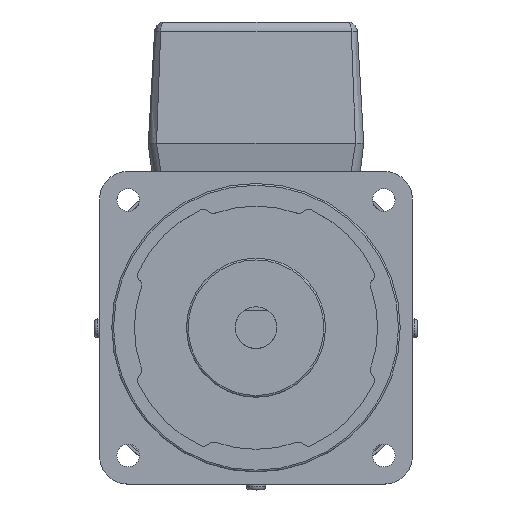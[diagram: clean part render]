
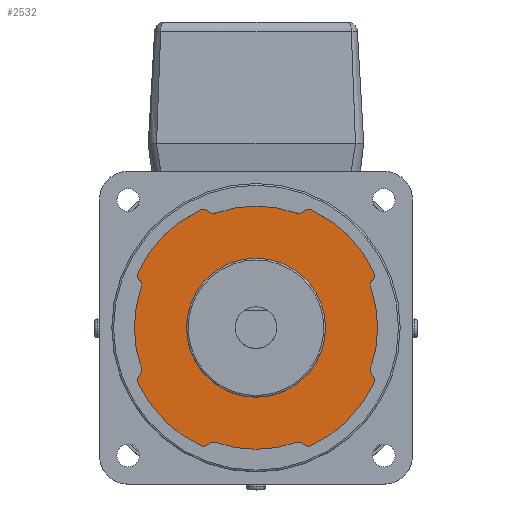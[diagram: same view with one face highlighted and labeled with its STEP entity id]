
A CAD part, top view. The second image highlights one B-rep face of the part: STEP entity #2532.
In plain terms, the highlighted planar face has unit normal (0, 0, 1).
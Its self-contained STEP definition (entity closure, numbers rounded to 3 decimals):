
#1202=CARTESIAN_POINT('',(-13.722,-33.501,131.0));
#1203=VERTEX_POINT('',#1202);
#1219=CARTESIAN_POINT('',(-11.626,-33.013,131.0));
#1220=VERTEX_POINT('',#1219);
#1227=CARTESIAN_POINT('',(-12.291,-34.899,131.0));
#1228=DIRECTION('',(0.0,0.0,-1.0));
#1229=DIRECTION('',(-0.408,0.913,0.0));
#1230=AXIS2_PLACEMENT_3D('',#1227,#1228,#1229);
#1231=CIRCLE('',#1230,2.0);
#1232=EDGE_CURVE('',#1220,#1203,#1231,.F.);
#1252=CARTESIAN_POINT('',(11.626,-33.013,131.0));
#1253=VERTEX_POINT('',#1252);
#1260=CARTESIAN_POINT('',(0.,0.,131.));
#1261=DIRECTION('',(0.,0.,1.0));
#1262=DIRECTION('',(-0.383,-0.924,0.));
#1263=AXIS2_PLACEMENT_3D('',#1260,#1261,#1262);
#1264=CIRCLE('',#1263,35.0);
#1265=EDGE_CURVE('',#1220,#1253,#1264,.T.);
#1275=CARTESIAN_POINT('',(13.722,-33.501,131.0));
#1276=VERTEX_POINT('',#1275);
#1285=CARTESIAN_POINT('',(12.291,-34.899,131.0));
#1286=DIRECTION('',(0.0,0.0,-1.0));
#1287=DIRECTION('',(0.408,0.913,0.0));
#1288=AXIS2_PLACEMENT_3D('',#1285,#1286,#1287);
#1289=CIRCLE('',#1288,2.0);
#1290=EDGE_CURVE('',#1276,#1253,#1289,.F.);
#1317=CARTESIAN_POINT('',(16.006,-33.913,131.0));
#1318=VERTEX_POINT('',#1317);
#1325=CARTESIAN_POINT('',(15.152,-32.104,131.0));
#1326=DIRECTION('',(0.0,0.0,1.0));
#1327=DIRECTION('',(0.715,0.699,0.0));
#1328=AXIS2_PLACEMENT_3D('',#1325,#1326,#1327);
#1329=CIRCLE('',#1328,2.);
#1330=EDGE_CURVE('',#1276,#1318,#1329,.T.);
#1341=CARTESIAN_POINT('',(33.913,-16.006,131.0));
#1342=VERTEX_POINT('',#1341);
#1351=CARTESIAN_POINT('',(0.,0.,131.));
#1352=DIRECTION('',(0.,0.,1.0));
#1353=DIRECTION('',(0.383,-0.924,0.));
#1354=AXIS2_PLACEMENT_3D('',#1351,#1352,#1353);
#1355=CIRCLE('',#1354,37.5);
#1356=EDGE_CURVE('',#1318,#1342,#1355,.T.);
#1383=CARTESIAN_POINT('',(33.501,-13.722,131.0));
#1384=VERTEX_POINT('',#1383);
#1391=CARTESIAN_POINT('',(32.104,-15.152,131.0));
#1392=DIRECTION('',(0.0,0.0,1.0));
#1393=DIRECTION('',(-0.904,0.427,0.0));
#1394=AXIS2_PLACEMENT_3D('',#1391,#1392,#1393);
#1395=CIRCLE('',#1394,2.);
#1396=EDGE_CURVE('',#1342,#1384,#1395,.T.);
#1417=CARTESIAN_POINT('',(33.013,-11.626,131.0));
#1418=VERTEX_POINT('',#1417);
#1425=CARTESIAN_POINT('',(34.899,-12.291,131.0));
#1426=DIRECTION('',(0.0,0.0,-1.0));
#1427=DIRECTION('',(-0.913,-0.408,0.0));
#1428=AXIS2_PLACEMENT_3D('',#1425,#1426,#1427);
#1429=CIRCLE('',#1428,2.0);
#1430=EDGE_CURVE('',#1418,#1384,#1429,.F.);
#1440=CARTESIAN_POINT('',(33.013,11.626,131.0));
#1441=VERTEX_POINT('',#1440);
#1450=CARTESIAN_POINT('',(0.,0.,131.));
#1451=DIRECTION('',(0.,0.,1.0));
#1452=DIRECTION('',(0.924,-0.383,0.));
#1453=AXIS2_PLACEMENT_3D('',#1450,#1451,#1452);
#1454=CIRCLE('',#1453,35.);
#1455=EDGE_CURVE('',#1418,#1441,#1454,.T.);
#1473=CARTESIAN_POINT('',(33.501,13.722,131.0));
#1474=VERTEX_POINT('',#1473);
#1483=CARTESIAN_POINT('',(34.899,12.291,131.0));
#1484=DIRECTION('',(0.0,0.0,-1.0));
#1485=DIRECTION('',(-0.913,0.408,0.0));
#1486=AXIS2_PLACEMENT_3D('',#1483,#1484,#1485);
#1487=CIRCLE('',#1486,2.0);
#1488=EDGE_CURVE('',#1474,#1441,#1487,.F.);
#1515=CARTESIAN_POINT('',(33.913,16.006,131.0));
#1516=VERTEX_POINT('',#1515);
#1523=CARTESIAN_POINT('',(32.104,15.152,131.0));
#1524=DIRECTION('',(0.0,0.0,1.0));
#1525=DIRECTION('',(-0.699,0.715,0.0));
#1526=AXIS2_PLACEMENT_3D('',#1523,#1524,#1525);
#1527=CIRCLE('',#1526,2.);
#1528=EDGE_CURVE('',#1474,#1516,#1527,.T.);
#1539=CARTESIAN_POINT('',(16.006,33.913,131.0));
#1540=VERTEX_POINT('',#1539);
#1549=CARTESIAN_POINT('',(0.,0.,131.));
#1550=DIRECTION('',(0.,0.,1.0));
#1551=DIRECTION('',(0.924,0.383,0.));
#1552=AXIS2_PLACEMENT_3D('',#1549,#1550,#1551);
#1553=CIRCLE('',#1552,37.5);
#1554=EDGE_CURVE('',#1516,#1540,#1553,.T.);
#1581=CARTESIAN_POINT('',(13.722,33.501,131.0));
#1582=VERTEX_POINT('',#1581);
#1589=CARTESIAN_POINT('',(15.152,32.104,131.0));
#1590=DIRECTION('',(0.0,0.0,1.0));
#1591=DIRECTION('',(-0.427,-0.904,0.0));
#1592=AXIS2_PLACEMENT_3D('',#1589,#1590,#1591);
#1593=CIRCLE('',#1592,2.);
#1594=EDGE_CURVE('',#1540,#1582,#1593,.T.);
#1615=CARTESIAN_POINT('',(11.626,33.013,131.0));
#1616=VERTEX_POINT('',#1615);
#1623=CARTESIAN_POINT('',(12.291,34.899,131.0));
#1624=DIRECTION('',(0.0,0.0,-1.0));
#1625=DIRECTION('',(0.408,-0.913,0.0));
#1626=AXIS2_PLACEMENT_3D('',#1623,#1624,#1625);
#1627=CIRCLE('',#1626,2.0);
#1628=EDGE_CURVE('',#1616,#1582,#1627,.F.);
#1638=CARTESIAN_POINT('',(-11.626,33.013,131.0));
#1639=VERTEX_POINT('',#1638);
#1648=CARTESIAN_POINT('',(0.,0.,131.));
#1649=DIRECTION('',(0.,0.,1.0));
#1650=DIRECTION('',(0.383,0.924,0.));
#1651=AXIS2_PLACEMENT_3D('',#1648,#1649,#1650);
#1652=CIRCLE('',#1651,35.0);
#1653=EDGE_CURVE('',#1616,#1639,#1652,.T.);
#1671=CARTESIAN_POINT('',(-13.722,33.501,131.0));
#1672=VERTEX_POINT('',#1671);
#1681=CARTESIAN_POINT('',(-12.291,34.899,131.0));
#1682=DIRECTION('',(0.0,0.0,-1.0));
#1683=DIRECTION('',(-0.408,-0.913,0.0));
#1684=AXIS2_PLACEMENT_3D('',#1681,#1682,#1683);
#1685=CIRCLE('',#1684,2.0);
#1686=EDGE_CURVE('',#1672,#1639,#1685,.F.);
#1713=CARTESIAN_POINT('',(-16.006,33.913,131.0));
#1714=VERTEX_POINT('',#1713);
#1721=CARTESIAN_POINT('',(-15.152,32.104,131.0));
#1722=DIRECTION('',(0.0,0.0,1.0));
#1723=DIRECTION('',(-0.715,-0.699,0.0));
#1724=AXIS2_PLACEMENT_3D('',#1721,#1722,#1723);
#1725=CIRCLE('',#1724,2.);
#1726=EDGE_CURVE('',#1672,#1714,#1725,.T.);
#1747=CARTESIAN_POINT('',(-33.913,16.006,131.0));
#1748=VERTEX_POINT('',#1747);
#1755=CARTESIAN_POINT('',(0.,0.,131.));
#1756=DIRECTION('',(0.,0.,1.0));
#1757=DIRECTION('',(-0.383,0.924,0.));
#1758=AXIS2_PLACEMENT_3D('',#1755,#1756,#1757);
#1759=CIRCLE('',#1758,37.5);
#1760=EDGE_CURVE('',#1714,#1748,#1759,.T.);
#1779=CARTESIAN_POINT('',(-33.501,13.722,131.0));
#1780=VERTEX_POINT('',#1779);
#1787=CARTESIAN_POINT('',(-32.104,15.152,131.0));
#1788=DIRECTION('',(0.0,0.0,1.0));
#1789=DIRECTION('',(0.904,-0.427,0.0));
#1790=AXIS2_PLACEMENT_3D('',#1787,#1788,#1789);
#1791=CIRCLE('',#1790,2.);
#1792=EDGE_CURVE('',#1748,#1780,#1791,.T.);
#1813=CARTESIAN_POINT('',(-33.013,11.626,131.0));
#1814=VERTEX_POINT('',#1813);
#1821=CARTESIAN_POINT('',(-34.899,12.291,131.0));
#1822=DIRECTION('',(0.0,0.0,-1.0));
#1823=DIRECTION('',(0.913,0.408,0.0));
#1824=AXIS2_PLACEMENT_3D('',#1821,#1822,#1823);
#1825=CIRCLE('',#1824,2.0);
#1826=EDGE_CURVE('',#1814,#1780,#1825,.F.);
#1836=CARTESIAN_POINT('',(-33.013,-11.626,131.0));
#1837=VERTEX_POINT('',#1836);
#1846=CARTESIAN_POINT('',(0.,0.,131.));
#1847=DIRECTION('',(0.,0.,1.0));
#1848=DIRECTION('',(-0.924,0.383,0.));
#1849=AXIS2_PLACEMENT_3D('',#1846,#1847,#1848);
#1850=CIRCLE('',#1849,35.0);
#1851=EDGE_CURVE('',#1814,#1837,#1850,.T.);
#1869=CARTESIAN_POINT('',(-33.501,-13.722,131.0));
#1870=VERTEX_POINT('',#1869);
#1879=CARTESIAN_POINT('',(-34.899,-12.291,131.0));
#1880=DIRECTION('',(0.0,0.0,-1.0));
#1881=DIRECTION('',(0.913,-0.408,0.0));
#1882=AXIS2_PLACEMENT_3D('',#1879,#1880,#1881);
#1883=CIRCLE('',#1882,2.0);
#1884=EDGE_CURVE('',#1870,#1837,#1883,.F.);
#1911=CARTESIAN_POINT('',(-33.913,-16.006,131.0));
#1912=VERTEX_POINT('',#1911);
#1919=CARTESIAN_POINT('',(-32.104,-15.152,131.0));
#1920=DIRECTION('',(0.0,0.0,1.0));
#1921=DIRECTION('',(0.699,-0.715,0.0));
#1922=AXIS2_PLACEMENT_3D('',#1919,#1920,#1921);
#1923=CIRCLE('',#1922,2.);
#1924=EDGE_CURVE('',#1870,#1912,#1923,.T.);
#1935=CARTESIAN_POINT('',(-16.006,-33.913,131.0));
#1936=VERTEX_POINT('',#1935);
#1945=CARTESIAN_POINT('',(0.,0.,131.));
#1946=DIRECTION('',(0.,0.,1.0));
#1947=DIRECTION('',(-0.924,-0.383,0.));
#1948=AXIS2_PLACEMENT_3D('',#1945,#1946,#1947);
#1949=CIRCLE('',#1948,37.5);
#1950=EDGE_CURVE('',#1912,#1936,#1949,.T.);
#1976=CARTESIAN_POINT('',(-15.152,-32.104,131.0));
#1977=DIRECTION('',(0.0,0.0,1.0));
#1978=DIRECTION('',(0.427,0.904,0.0));
#1979=AXIS2_PLACEMENT_3D('',#1976,#1977,#1978);
#1980=CIRCLE('',#1979,2.);
#1981=EDGE_CURVE('',#1936,#1203,#1980,.T.);
#2475=CARTESIAN_POINT('',(20.0,0.,131.0));
#2476=VERTEX_POINT('',#2475);
#2477=CARTESIAN_POINT('',(0.,0.,131.0));
#2478=DIRECTION('',(0.0,0.0,-1.0));
#2479=DIRECTION('',(-1.0,0.0,0.0));
#2480=AXIS2_PLACEMENT_3D('',#2477,#2478,#2479);
#2481=CIRCLE('',#2480,20.0);
#2482=EDGE_CURVE('',#2476,#2476,#2481,.T.);
#2498=CARTESIAN_POINT('',(0.,0.,131.0));
#2499=DIRECTION('',(0.0,0.0,1.0));
#2500=DIRECTION('',(1.0,0.0,0.0));
#2501=AXIS2_PLACEMENT_3D('',#2498,#2499,#2500);
#2502=PLANE('',#2501);
#2503=ORIENTED_EDGE('',*,*,#1981,.T.);
#2504=ORIENTED_EDGE('',*,*,#1232,.F.);
#2505=ORIENTED_EDGE('',*,*,#1265,.T.);
#2506=ORIENTED_EDGE('',*,*,#1290,.F.);
#2507=ORIENTED_EDGE('',*,*,#1330,.T.);
#2508=ORIENTED_EDGE('',*,*,#1356,.T.);
#2509=ORIENTED_EDGE('',*,*,#1396,.T.);
#2510=ORIENTED_EDGE('',*,*,#1430,.F.);
#2511=ORIENTED_EDGE('',*,*,#1455,.T.);
#2512=ORIENTED_EDGE('',*,*,#1488,.F.);
#2513=ORIENTED_EDGE('',*,*,#1528,.T.);
#2514=ORIENTED_EDGE('',*,*,#1554,.T.);
#2515=ORIENTED_EDGE('',*,*,#1594,.T.);
#2516=ORIENTED_EDGE('',*,*,#1628,.F.);
#2517=ORIENTED_EDGE('',*,*,#1653,.T.);
#2518=ORIENTED_EDGE('',*,*,#1686,.F.);
#2519=ORIENTED_EDGE('',*,*,#1726,.T.);
#2520=ORIENTED_EDGE('',*,*,#1760,.T.);
#2521=ORIENTED_EDGE('',*,*,#1792,.T.);
#2522=ORIENTED_EDGE('',*,*,#1826,.F.);
#2523=ORIENTED_EDGE('',*,*,#1851,.T.);
#2524=ORIENTED_EDGE('',*,*,#1884,.F.);
#2525=ORIENTED_EDGE('',*,*,#1924,.T.);
#2526=ORIENTED_EDGE('',*,*,#1950,.T.);
#2527=EDGE_LOOP('',(#2503,#2504,#2505,#2506,#2507,#2508,#2509,#2510,#2511,#2512,#2513,#2514,#2515,#2516,#2517,#2518,#2519,#2520,#2521,#2522,#2523,#2524,#2525,#2526));
#2528=FACE_OUTER_BOUND('',#2527,.T.);
#2529=ORIENTED_EDGE('',*,*,#2482,.T.);
#2530=EDGE_LOOP('',(#2529));
#2531=FACE_BOUND('',#2530,.T.);
#2532=ADVANCED_FACE('',(#2528,#2531),#2502,.T.);
